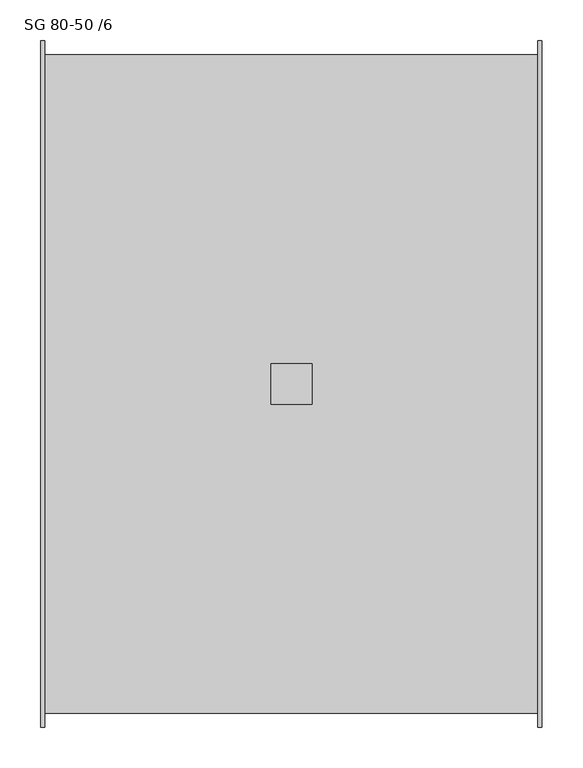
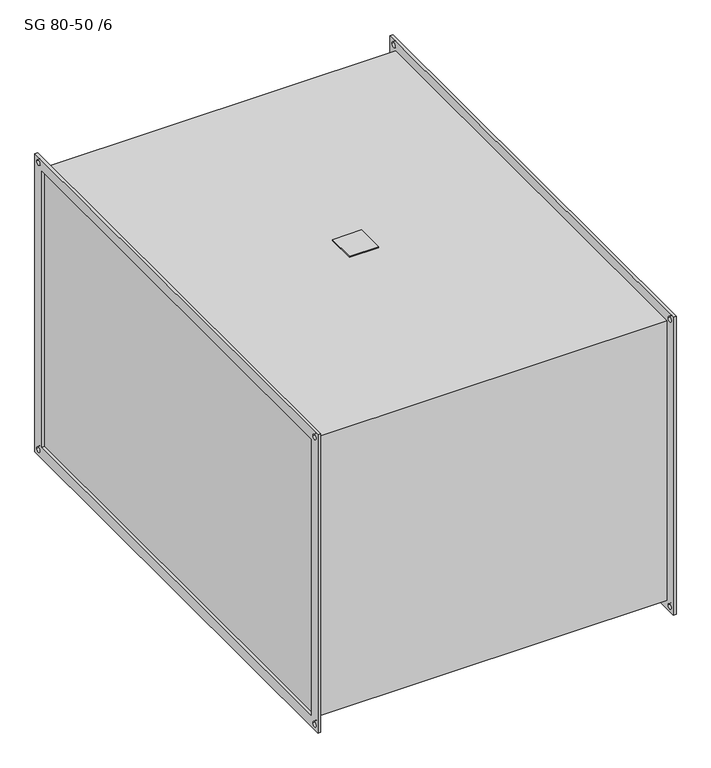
"""IFC4 building model written with IfcOpenShell, lengths in millimetres: damper geometry, KORF_Шумоглушитель_SG : SG 80-50 /6."""

from ifc_helpers import new_model, si_unit, point, frame, frame_2d, origin, place, context, project, spatial, polyline, circle_curve, trimmed, segment, composite_curve, outline, extrude, source, transform, mapped, element, save


def sg_80_50_6_522d5c34(model_context):
    return source(origin(), model_context, "Body", "SweptSolid", [
        extrude(outline(polyline([(282.0, -25.0), (282.0, 25.0), (332.0, 25.0), (332.0, -25.0), (282.0, -25.0)])), frame((0.0, 0.0, 253.0), z_axis=(0.0, 0.0, 1.0), x_axis=(1.0, 0.0, 0.0)), (0.0, 0.0, 1.0), 2.0),
        extrude(outline(polyline([(-420.0, 270.0), (420.0, 270.0), (420.0, -270.0), (-420.0, -270.0), (-420.0, 270.0)]), holes=[polyline([(-400.0, 250.0), (-400.0, -250.0), (400.0, -250.0), (400.0, 250.0), (-400.0, 250.0)]), composite_curve([segment(trimmed(circle_curve(frame_2d((410.0, 260.0)), 4.5), [point((405.5, 260.0))], [point((414.5, 260.0))], True, "CARTESIAN"), True, "CONTINUOUS"), segment(trimmed(circle_curve(frame_2d((410.0, 260.0)), 4.5), [point((414.5, 260.0))], [point((405.5, 260.0))], True, "CARTESIAN"), True, "CONTINUOUS")], self_intersect=False), composite_curve([segment(trimmed(circle_curve(frame_2d((-410.0, 260.0)), 4.5), [point((-414.5, 260.0))], [point((-405.5, 260.0))], True, "CARTESIAN"), True, "CONTINUOUS"), segment(trimmed(circle_curve(frame_2d((-410.0, 260.0)), 4.5), [point((-405.5, 260.0))], [point((-414.5, 260.0))], True, "CARTESIAN"), True, "CONTINUOUS")], self_intersect=False), composite_curve([segment(trimmed(circle_curve(frame_2d((-410.0, -260.0)), 4.5), [point((-414.5, -260.0))], [point((-405.5, -260.0))], True, "CARTESIAN"), True, "CONTINUOUS"), segment(trimmed(circle_curve(frame_2d((-410.0, -260.0)), 4.5), [point((-405.5, -260.0))], [point((-414.5, -260.0))], True, "CARTESIAN"), True, "CONTINUOUS")], self_intersect=False), composite_curve([segment(trimmed(circle_curve(frame_2d((410.0, -260.0)), 4.5), [point((405.5, -260.0))], [point((414.5, -260.0))], True, "CARTESIAN"), True, "CONTINUOUS"), segment(trimmed(circle_curve(frame_2d((410.0, -260.0)), 4.5), [point((414.5, -260.0))], [point((405.5, -260.0))], True, "CARTESIAN"), True, "CONTINUOUS")], self_intersect=False)]), frame((609.0, 0.0, 0.0), z_axis=(1.0, 0.0, 0.0), x_axis=(0.0, 1.0, 0.0)), (0.0, 0.0, 1.0), 5.0),
        extrude(outline(polyline([(-420.0, 270.0), (420.0, 270.0), (420.0, -270.0), (-420.0, -270.0), (-420.0, 270.0)]), holes=[polyline([(-400.0, 250.0), (-400.0, -250.0), (400.0, -250.0), (400.0, 250.0), (-400.0, 250.0)]), composite_curve([segment(trimmed(circle_curve(frame_2d((410.0, 260.0)), 4.5), [point((405.5, 260.0))], [point((414.5, 260.0))], True, "CARTESIAN"), True, "CONTINUOUS"), segment(trimmed(circle_curve(frame_2d((410.0, 260.0)), 4.5), [point((414.5, 260.0))], [point((405.5, 260.0))], True, "CARTESIAN"), True, "CONTINUOUS")], self_intersect=False), composite_curve([segment(trimmed(circle_curve(frame_2d((-410.0, 260.0)), 4.5), [point((-414.5, 260.0))], [point((-405.5, 260.0))], True, "CARTESIAN"), True, "CONTINUOUS"), segment(trimmed(circle_curve(frame_2d((-410.0, 260.0)), 4.5), [point((-405.5, 260.0))], [point((-414.5, 260.0))], True, "CARTESIAN"), True, "CONTINUOUS")], self_intersect=False), composite_curve([segment(trimmed(circle_curve(frame_2d((-410.0, -260.0)), 4.5), [point((-414.5, -260.0))], [point((-405.5, -260.0))], True, "CARTESIAN"), True, "CONTINUOUS"), segment(trimmed(circle_curve(frame_2d((-410.0, -260.0)), 4.5), [point((-405.5, -260.0))], [point((-414.5, -260.0))], True, "CARTESIAN"), True, "CONTINUOUS")], self_intersect=False), composite_curve([segment(trimmed(circle_curve(frame_2d((410.0, -260.0)), 4.5), [point((405.5, -260.0))], [point((414.5, -260.0))], True, "CARTESIAN"), True, "CONTINUOUS"), segment(trimmed(circle_curve(frame_2d((410.0, -260.0)), 4.5), [point((414.5, -260.0))], [point((405.5, -260.0))], True, "CARTESIAN"), True, "CONTINUOUS")], self_intersect=False)]), frame((0.0, 0.0, 0.0), z_axis=(1.0, 0.0, 0.0), x_axis=(0.0, 1.0, 0.0)), (0.0, 0.0, 1.0), 5.0),
        extrude(outline(polyline([(609.0, 403.0), (609.0, -403.0), (5.0, -403.0), (5.0, 403.0), (609.0, 403.0)])), frame((0.0, 0.0, -253.0), z_axis=(0.0, 0.0, 1.0), x_axis=(1.0, 0.0, 0.0)), (0.0, 0.0, 1.0), 506.0),
    ])


if __name__ == "__main__":
    model = new_model("IFC4")
    model_context = context("Model", 3, world=origin())
    ifc_project = project(units=[si_unit("LENGTHUNIT", "METRE", prefix="MILLI")], contexts=[model_context])
    site = spatial("IfcSite", under=ifc_project)
    building = spatial("IfcBuilding", under=site)
    placement = place(None, origin())
    sg_80_50_6_shape = sg_80_50_6_522d5c34(model_context)
    element("IfcDamper", 1, ObjectType="KORF_Шумоглушитель_SG : SG 80-50 /6", at=placement, inside=building, context=model_context, shape_type="MappedRepresentation", body=[
        mapped(sg_80_50_6_shape, transform((0.0, 0.0, 0.0), x_axis=(1.0, 0.0, 0.0), y_axis=(0.0, 1.0, 0.0), z_axis=(0.0, 0.0, 1.0))),
    ])
    save(model, "model.ifc")
